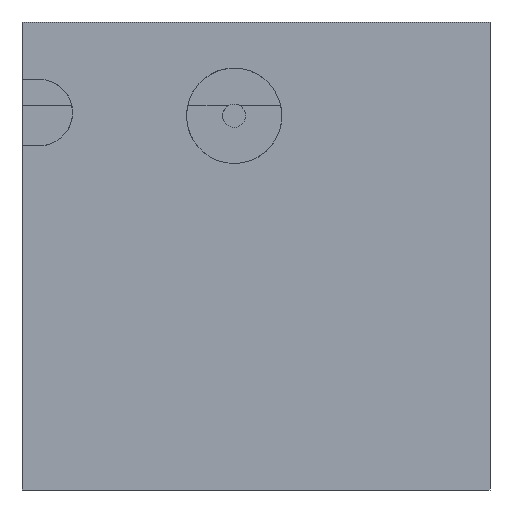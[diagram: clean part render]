
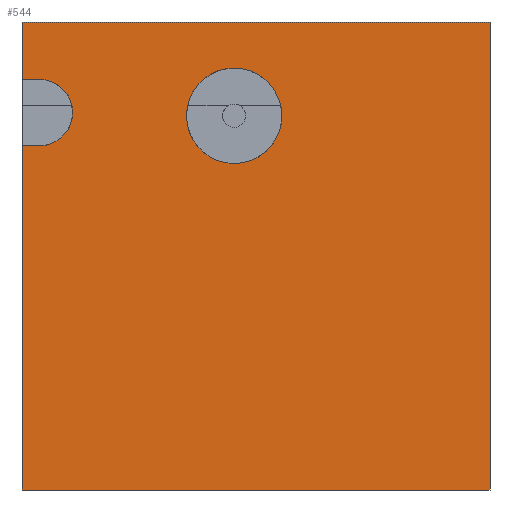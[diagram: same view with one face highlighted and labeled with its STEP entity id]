
A CAD part, front view. The second image highlights one B-rep face of the part: STEP entity #544.
In plain terms, the highlighted planar face has unit normal (0, -1, 0).
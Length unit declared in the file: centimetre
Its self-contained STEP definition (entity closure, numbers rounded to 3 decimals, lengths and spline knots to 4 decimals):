
#2 = CARTESIAN_POINT ( 'NONE',  ( 1000., 0., 1000. ) ) ;
#35 = LINE ( 'NONE', #286, #143 ) ;
#46 = DIRECTION ( 'NONE',  ( 0., 0., -1. ) ) ;
#48 = VERTEX_POINT ( 'NONE', #407 ) ;
#130 = CARTESIAN_POINT ( 'NONE',  ( 0., 0., 0. ) ) ;
#143 = VECTOR ( 'NONE', #1278, 100. ) ;
#148 = EDGE_CURVE ( 'NONE', #821, #163, #1674, .T. ) ;
#163 = VERTEX_POINT ( 'NONE', #1645 ) ;
#176 = AXIS2_PLACEMENT_3D ( 'NONE', #760, #624, #327 ) ;
#189 = VERTEX_POINT ( 'NONE', #850 ) ;
#197 = CARTESIAN_POINT ( 'NONE',  ( 1000., 0., 1000. ) ) ;
#209 = PLANE ( 'NONE',  #176 ) ;
#220 = CARTESIAN_POINT ( 'NONE',  ( 0., 0., 0. ) ) ;
#230 = DIRECTION ( 'NONE',  ( 0., -1., 0. ) ) ;
#256 = EDGE_CURVE ( 'NONE', #358, #461, #735, .T. ) ;
#286 = CARTESIAN_POINT ( 'NONE',  ( 37.0313, 0., 877.4876 ) ) ;
#304 = CARTESIAN_POINT ( 'NONE',  ( 0., 0., 1000. ) ) ;
#316 = AXIS2_PLACEMENT_3D ( 'NONE', #500, #736, #46 ) ;
#323 = EDGE_CURVE ( 'NONE', #388, #48, #1559, .T. ) ;
#327 = DIRECTION ( 'NONE',  ( 0., 0., 1. ) ) ;
#345 = FACE_BOUND ( 'NONE', #486, .T. ) ;
#358 = VERTEX_POINT ( 'NONE', #1671 ) ;
#380 = VECTOR ( 'NONE', #474, 100. ) ;
#388 = VERTEX_POINT ( 'NONE', #1381 ) ;
#398 = ORIENTED_EDGE ( 'NONE', *, *, #1516, .T. ) ;
#407 = CARTESIAN_POINT ( 'NONE',  ( 37.0313, 0., 877.4876 ) ) ;
#455 = ORIENTED_EDGE ( 'NONE', *, *, #942, .F. ) ;
#461 = VERTEX_POINT ( 'NONE', #197 ) ;
#474 = DIRECTION ( 'NONE',  ( 1., 0., 0. ) ) ;
#481 = LINE ( 'NONE', #1449, #1092 ) ;
#486 = EDGE_LOOP ( 'NONE', ( #639, #1062 ) ) ;
#500 = CARTESIAN_POINT ( 'NONE',  ( 453.4132, 0., 799.6062 ) ) ;
#505 = DIRECTION ( 'NONE',  ( 0., 0., -1. ) ) ;
#516 = AXIS2_PLACEMENT_3D ( 'NONE', #1534, #964, #546 ) ;
#544 = ADVANCED_FACE ( 'NONE', ( #345, #1323 ), #209, .F. ) ;
#546 = DIRECTION ( 'NONE',  ( 0., 0., -1. ) ) ;
#602 = VECTOR ( 'NONE', #1102, 100. ) ;
#624 = DIRECTION ( 'NONE',  ( 0., 1., 0. ) ) ;
#639 = ORIENTED_EDGE ( 'NONE', *, *, #844, .F. ) ;
#702 = VERTEX_POINT ( 'NONE', #1346 ) ;
#706 = DIRECTION ( 'NONE',  ( 1., 0., 0. ) ) ;
#733 = CARTESIAN_POINT ( 'NONE',  ( 0., 0., 735.4582 ) ) ;
#735 = LINE ( 'NONE', #1563, #380 ) ;
#736 = DIRECTION ( 'NONE',  ( 0., -1., 0. ) ) ;
#760 = CARTESIAN_POINT ( 'NONE',  ( 0., 0., 1000. ) ) ;
#790 = LINE ( 'NONE', #818, #1530 ) ;
#818 = CARTESIAN_POINT ( 'NONE',  ( 0., 0., 1000. ) ) ;
#821 = VERTEX_POINT ( 'NONE', #220 ) ;
#841 = VECTOR ( 'NONE', #1139, 100. ) ;
#844 = EDGE_CURVE ( 'NONE', #702, #1382, #1005, .T. ) ;
#850 = CARTESIAN_POINT ( 'NONE',  ( 0., 0., 877.4876 ) ) ;
#942 = EDGE_CURVE ( 'NONE', #1182, #388, #481, .T. ) ;
#958 = CARTESIAN_POINT ( 'NONE',  ( 453.4132, 0., 901.4729 ) ) ;
#964 = DIRECTION ( 'NONE',  ( 0., -1., 0. ) ) ;
#975 = ORIENTED_EDGE ( 'NONE', *, *, #1317, .T. ) ;
#988 = ORIENTED_EDGE ( 'NONE', *, *, #148, .T. ) ;
#1005 = CIRCLE ( 'NONE', #1464, 101.8667 ) ;
#1038 = DIRECTION ( 'NONE',  ( 1., 0., 0. ) ) ;
#1062 = ORIENTED_EDGE ( 'NONE', *, *, #1669, .F. ) ;
#1092 = VECTOR ( 'NONE', #1038, 100. ) ;
#1102 = DIRECTION ( 'NONE',  ( 0., 0., -1. ) ) ;
#1137 = ORIENTED_EDGE ( 'NONE', *, *, #1284, .F. ) ;
#1139 = DIRECTION ( 'NONE',  ( 0., 0., -1. ) ) ;
#1182 = VERTEX_POINT ( 'NONE', #733 ) ;
#1271 = LINE ( 'NONE', #304, #841 ) ;
#1273 = CIRCLE ( 'NONE', #316, 101.8667 ) ;
#1278 = DIRECTION ( 'NONE',  ( -1., 0., 0. ) ) ;
#1284 = EDGE_CURVE ( 'NONE', #48, #189, #35, .T. ) ;
#1296 = CARTESIAN_POINT ( 'NONE',  ( 453.4132, 0., 799.6062 ) ) ;
#1311 = ORIENTED_EDGE ( 'NONE', *, *, #323, .F. ) ;
#1317 = EDGE_CURVE ( 'NONE', #358, #189, #790, .T. ) ;
#1323 = FACE_OUTER_BOUND ( 'NONE', #1631, .T. ) ;
#1334 = ORIENTED_EDGE ( 'NONE', *, *, #256, .F. ) ;
#1346 = CARTESIAN_POINT ( 'NONE',  ( 453.4132, 0., 697.7395 ) ) ;
#1379 = LINE ( 'NONE', #2, #602 ) ;
#1381 = CARTESIAN_POINT ( 'NONE',  ( 37.0313, 0., 735.4582 ) ) ;
#1382 = VERTEX_POINT ( 'NONE', #958 ) ;
#1449 = CARTESIAN_POINT ( 'NONE',  ( 0., 0., 735.4582 ) ) ;
#1464 = AXIS2_PLACEMENT_3D ( 'NONE', #1296, #230, #505 ) ;
#1490 = DIRECTION ( 'NONE',  ( 0., 0., -1. ) ) ;
#1516 = EDGE_CURVE ( 'NONE', #1182, #821, #1271, .T. ) ;
#1530 = VECTOR ( 'NONE', #1490, 100. ) ;
#1534 = CARTESIAN_POINT ( 'NONE',  ( 37.0313, 0., 806.4729 ) ) ;
#1559 = CIRCLE ( 'NONE', #516, 71.0147 ) ;
#1563 = CARTESIAN_POINT ( 'NONE',  ( 0., 0., 1000. ) ) ;
#1631 = EDGE_LOOP ( 'NONE', ( #975, #1137, #1311, #455, #398, #988, #1769, #1334 ) ) ;
#1645 = CARTESIAN_POINT ( 'NONE',  ( 1000., 0., 0. ) ) ;
#1669 = EDGE_CURVE ( 'NONE', #1382, #702, #1273, .T. ) ;
#1671 = CARTESIAN_POINT ( 'NONE',  ( 0., 0., 1000. ) ) ;
#1674 = LINE ( 'NONE', #130, #1677 ) ;
#1677 = VECTOR ( 'NONE', #706, 100. ) ;
#1769 = ORIENTED_EDGE ( 'NONE', *, *, #1774, .F. ) ;
#1774 = EDGE_CURVE ( 'NONE', #461, #163, #1379, .T. ) ;
